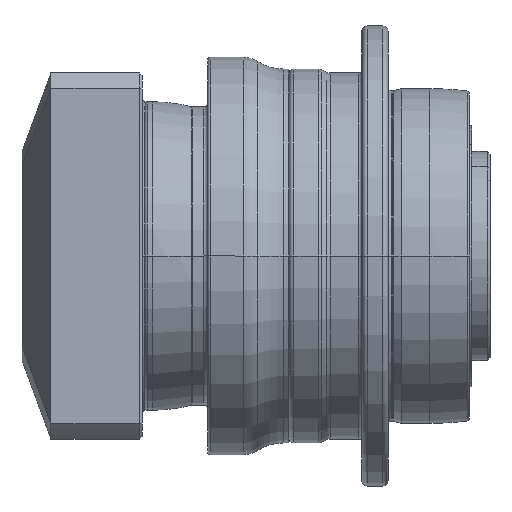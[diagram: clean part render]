
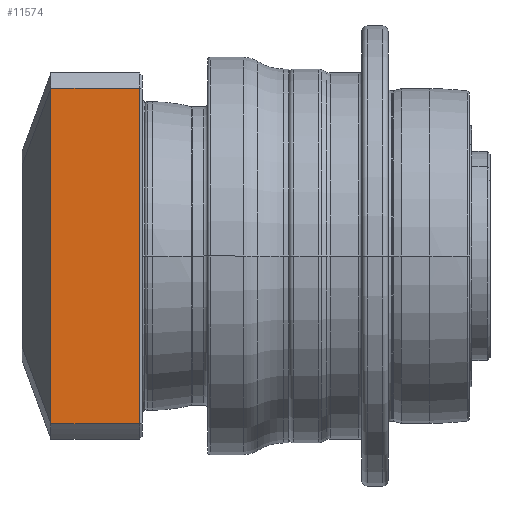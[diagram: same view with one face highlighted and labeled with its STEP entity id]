
A CAD part, front view. The second image highlights one B-rep face of the part: STEP entity #11574.
In plain terms, the highlighted planar face has unit normal (0, -1, 0) as drawn and (0, 1, 0) by its records, which use the part's own axes.
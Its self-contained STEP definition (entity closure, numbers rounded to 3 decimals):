
#10279=CARTESIAN_POINT('',(-32.113,35.,19.5));
#10281=DIRECTION('',(-1.,0.,0.));
#10282=VECTOR('',#10281,64.226);
#10283=CARTESIAN_POINT('',(32.113,35.,19.5));
#10284=LINE('',#10283,#10282);
#10285=DIRECTION('',(0.,0.,1.));
#10286=VECTOR('',#10285,17.);
#10287=CARTESIAN_POINT('',(-32.113,35.,2.5));
#10288=LINE('',#10287,#10286);
#10289=DIRECTION('',(0.,0.,1.));
#10290=VECTOR('',#10289,17.);
#10291=CARTESIAN_POINT('',(32.113,35.,2.5));
#10292=LINE('',#10291,#10290);
#10313=DIRECTION('',(-1.,0.,0.));
#10314=VECTOR('',#10313,64.226);
#10315=CARTESIAN_POINT('',(32.113,35.,2.5));
#10316=LINE('',#10315,#10314);
#10741=CARTESIAN_POINT('',(32.113,35.,2.5));
#10742=CARTESIAN_POINT('',(-32.113,35.,2.5));
#10743=VERTEX_POINT('',#10741);
#10744=VERTEX_POINT('',#10742);
#10818=CARTESIAN_POINT('',(32.113,35.,19.5));
#10820=VERTEX_POINT('',#10818);
#10822=VERTEX_POINT('',#10279);
#11560=CARTESIAN_POINT('',(35.,35.,0.));
#11561=DIRECTION('',(0.,1.,0.));
#11562=DIRECTION('',(-1.,0.,0.));
#11563=AXIS2_PLACEMENT_3D('',#11560,#11561,#11562);
#11564=PLANE('',#11563);
#11565=ORIENTED_EDGE('',*,*,#11555,.T.);
#11567=ORIENTED_EDGE('',*,*,#11566,.F.);
#11569=ORIENTED_EDGE('',*,*,#11568,.F.);
#11571=ORIENTED_EDGE('',*,*,#11570,.T.);
#11572=EDGE_LOOP('',(#11565,#11567,#11569,#11571));
#11573=FACE_OUTER_BOUND('',#11572,.F.);
#11574=ADVANCED_FACE('',(#11573),#11564,.T.);
#11555=EDGE_CURVE('',#10820,#10822,#10284,.T.);
#11566=EDGE_CURVE('',#10744,#10822,#10288,.T.);
#11568=EDGE_CURVE('',#10743,#10744,#10316,.T.);
#11570=EDGE_CURVE('',#10743,#10820,#10292,.T.);
